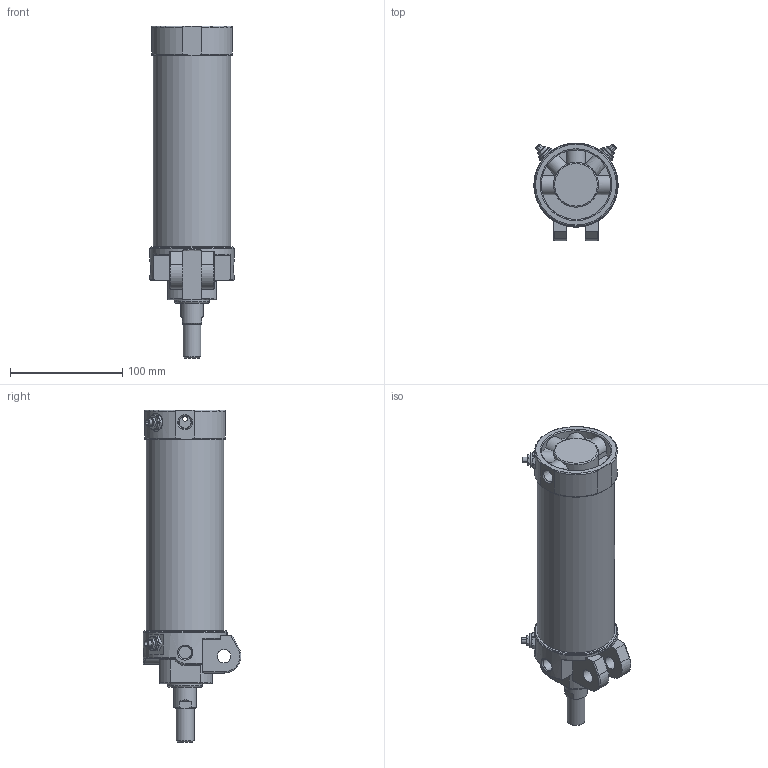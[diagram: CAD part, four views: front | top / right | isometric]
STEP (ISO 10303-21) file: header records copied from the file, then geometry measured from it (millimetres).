
FILE_DESCRIPTION((''),'2;1');
FILE_NAME('I:\3D電子目錄\氣缸\DCK\DCK\DCK-1A-63x125.stp','2008-02-26T15:15:07',('Administrator'),(''),'Autodesk Inventor 11','Autodesk Inventor 11','');
FILE_SCHEMA(('AUTOMOTIVE_DESIGN { 1 0 10303 214 1 1 1 1 }'));
Length unit declared in the file: millimetre
Products named in the file (6): DCK-1A-63; 緩衝針; 緩衝針-1; 緩衝針-201; 緩衝針-3
Assembly tree (8 placements, depth 3):
  DCK-1A-63
    DCK-1A-63
    緩衝針  x4
      緩衝針-1
      緩衝針-201
      緩衝針-3
Bounding box: 75 x 87.29 x 296 mm (x, y, z)
Volume: 352254.6 mm3; surface area: 146716 mm2
Topology: 16 solids, 16 shells, 590 faces, 1297 edges, 807 vertices
Faces by surface type: plane 219, cylinder 167, cone 131, torus 42, bspline 31
Full cylindrical faces by diameter (mm): 2 x1, 3 x2, 3.8 x2, 4 x6, 4.6 x4, 5 x8, 5.1 x4, 5.2 x12, 5.5 x4, 7 x1, 7.25 x1, 7.9 x4, 8 x2, 11.3 x3, 12 x2, 12.8 x4, 16 x2, 20 x1, 21 x1, 22 x2, 23 x1, 24.7 x1, 26 x1, 27 x1, 28 x1, 29 x1, 31 x1, 33 x1, 62 x1, 62.7 x1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
Entity records: 12413 total; most frequent: CARTESIAN_POINT 5248, DIRECTION 1447, ORIENTED_EDGE 1314, EDGE_CURVE 657, AXIS2_PLACEMENT_3D 630, EDGE_LOOP 509, VERTEX_POINT 472, FACE_OUTER_BOUND 341
